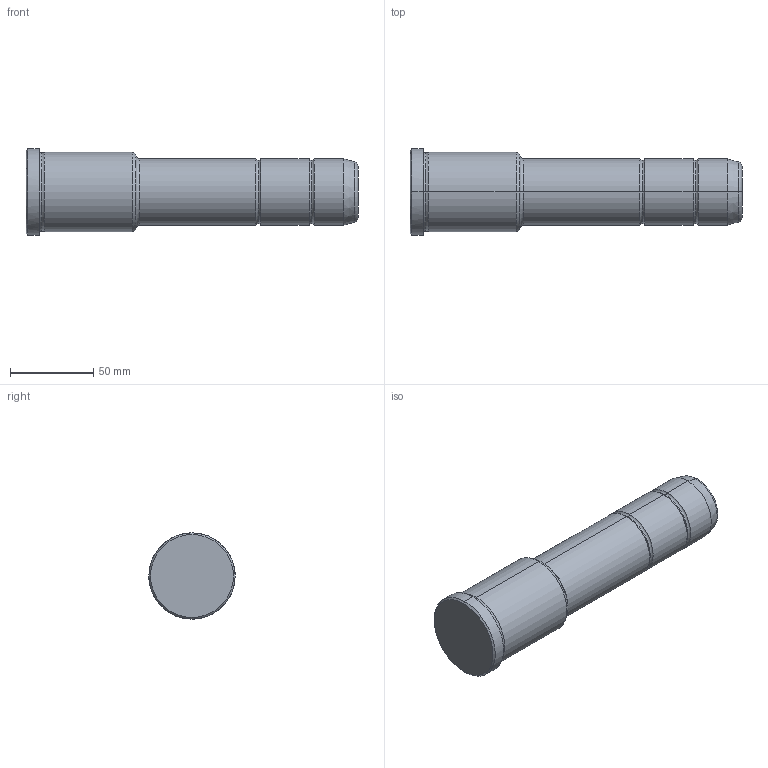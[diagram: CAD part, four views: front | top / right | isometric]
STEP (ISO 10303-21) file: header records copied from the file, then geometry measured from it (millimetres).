
FILE_DESCRIPTION(('CATIA V5 STEP Exchange'),'2;1');
FILE_NAME('C:\Users\Utente\Desktop\IO LAVORO\3D X SITO CF\X SITO\PLASTICA\351\351-40X66X200.stp','2021-10-28T18:25:38+00:00',('none'),('none'),'CATIA Version 5 Release 20 GA (IN-10)','CATIA V5 STEP AP203','none');
FILE_SCHEMA(('CONFIG_CONTROL_DESIGN'));
Length unit declared in the file: millimetre
Products named in the file (1): 351-40X66X200
Bounding box: 200 x 52 x 52 mm (x, y, z)
Volume: 288149.6 mm3; surface area: 30587.4 mm2
Topology: 1 solids, 1 shells, 36 faces, 102 edges, 70 vertices
Faces by surface type: torus 16, cylinder 10, cone 6, plane 4
Entity records: 1292 total; most frequent: CARTESIAN_POINT 321, ORIENTED_EDGE 204, DIRECTION 166, AXIS2_PLACEMENT_3D 115, EDGE_CURVE 102, CIRCLE 78, VERTEX_POINT 70, EDGE_LOOP 38
